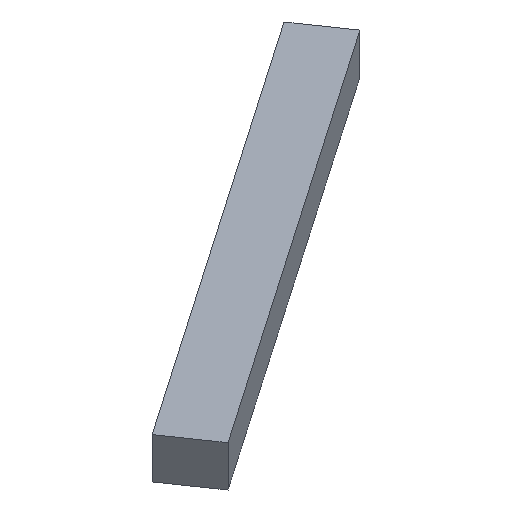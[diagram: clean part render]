
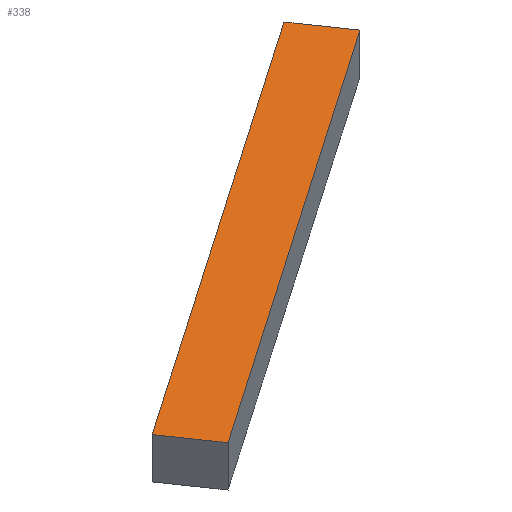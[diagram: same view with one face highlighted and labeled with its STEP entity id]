
A CAD part, isometric view. The second image highlights one B-rep face of the part: STEP entity #338.
In plain terms, the highlighted planar face has unit normal (0, 0, 1).
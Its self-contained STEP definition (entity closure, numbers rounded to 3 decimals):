
#24 = VERTEX_POINT('',#25);
#25 = CARTESIAN_POINT('',(-325.731,62.706,43.));
#32 = PLANE('',#33);
#33 = AXIS2_PLACEMENT_3D('',#34,#35,#36);
#34 = CARTESIAN_POINT('',(-325.731,62.706,37.));
#35 = DIRECTION('',(0.567,-0.824,0.));
#36 = DIRECTION('',(-0.824,-0.567,0.));
#44 = PLANE('',#45);
#45 = AXIS2_PLACEMENT_3D('',#46,#47,#48);
#46 = CARTESIAN_POINT('',(-330.269,69.294,37.));
#47 = DIRECTION('',(0.824,0.567,-0.));
#48 = DIRECTION('',(0.567,-0.824,0.));
#56 = EDGE_CURVE('',#24,#57,#59,.T.);
#57 = VERTEX_POINT('',#58);
#58 = CARTESIAN_POINT('',(-387.731,20.006,43.));
#59 = SURFACE_CURVE('',#60,(#64,#71),.PCURVE_S1.);
#60 = LINE('',#61,#62);
#61 = CARTESIAN_POINT('',(-325.731,62.706,43.));
#62 = VECTOR('',#63,1.);
#63 = DIRECTION('',(-0.824,-0.567,0.));
#64 = PCURVE('',#32,#65);
#65 = DEFINITIONAL_REPRESENTATION('',(#66),#70);
#66 = LINE('',#67,#68);
#67 = CARTESIAN_POINT('',(0.,-6.));
#68 = VECTOR('',#69,1.);
#69 = DIRECTION('',(1.,0.));
#70 = ( GEOMETRIC_REPRESENTATION_CONTEXT(2) 
PARAMETRIC_REPRESENTATION_CONTEXT() REPRESENTATION_CONTEXT('2D SPACE',''
  ) );
#71 = PCURVE('',#72,#77);
#72 = PLANE('',#73);
#73 = AXIS2_PLACEMENT_3D('',#74,#75,#76);
#74 = CARTESIAN_POINT('',(-359.,44.65,43.));
#75 = DIRECTION('',(-0.,-0.,-1.));
#76 = DIRECTION('',(-1.,0.,0.));
#77 = DEFINITIONAL_REPRESENTATION('',(#78),#82);
#78 = LINE('',#79,#80);
#79 = CARTESIAN_POINT('',(-33.269,18.056));
#80 = VECTOR('',#81,1.);
#81 = DIRECTION('',(0.824,-0.567));
#82 = ( GEOMETRIC_REPRESENTATION_CONTEXT(2) 
PARAMETRIC_REPRESENTATION_CONTEXT() REPRESENTATION_CONTEXT('2D SPACE',''
  ) );
#100 = PLANE('',#101);
#101 = AXIS2_PLACEMENT_3D('',#102,#103,#104);
#102 = CARTESIAN_POINT('',(-387.731,20.006,37.));
#103 = DIRECTION('',(-0.824,-0.567,0.));
#104 = DIRECTION('',(-0.567,0.824,0.));
#142 = EDGE_CURVE('',#57,#143,#145,.T.);
#143 = VERTEX_POINT('',#144);
#144 = CARTESIAN_POINT('',(-392.269,26.594,43.));
#145 = SURFACE_CURVE('',#146,(#150,#157),.PCURVE_S1.);
#146 = LINE('',#147,#148);
#147 = CARTESIAN_POINT('',(-387.731,20.006,43.));
#148 = VECTOR('',#149,1.);
#149 = DIRECTION('',(-0.567,0.824,0.));
#150 = PCURVE('',#100,#151);
#151 = DEFINITIONAL_REPRESENTATION('',(#152),#156);
#152 = LINE('',#153,#154);
#153 = CARTESIAN_POINT('',(0.,-6.));
#154 = VECTOR('',#155,1.);
#155 = DIRECTION('',(1.,0.));
#156 = ( GEOMETRIC_REPRESENTATION_CONTEXT(2) 
PARAMETRIC_REPRESENTATION_CONTEXT() REPRESENTATION_CONTEXT('2D SPACE',''
  ) );
#157 = PCURVE('',#72,#158);
#158 = DEFINITIONAL_REPRESENTATION('',(#159),#163);
#159 = LINE('',#160,#161);
#160 = CARTESIAN_POINT('',(28.731,-24.644));
#161 = VECTOR('',#162,1.);
#162 = DIRECTION('',(0.567,0.824));
#163 = ( GEOMETRIC_REPRESENTATION_CONTEXT(2) 
PARAMETRIC_REPRESENTATION_CONTEXT() REPRESENTATION_CONTEXT('2D SPACE',''
  ) );
#181 = PLANE('',#182);
#182 = AXIS2_PLACEMENT_3D('',#183,#184,#185);
#183 = CARTESIAN_POINT('',(-392.269,26.594,37.));
#184 = DIRECTION('',(-0.567,0.824,0.));
#185 = DIRECTION('',(0.824,0.567,0.));
#218 = EDGE_CURVE('',#143,#219,#221,.T.);
#219 = VERTEX_POINT('',#220);
#220 = CARTESIAN_POINT('',(-330.269,69.294,43.));
#221 = SURFACE_CURVE('',#222,(#226,#233),.PCURVE_S1.);
#222 = LINE('',#223,#224);
#223 = CARTESIAN_POINT('',(-392.269,26.594,43.));
#224 = VECTOR('',#225,1.);
#225 = DIRECTION('',(0.824,0.567,0.));
#226 = PCURVE('',#181,#227);
#227 = DEFINITIONAL_REPRESENTATION('',(#228),#232);
#228 = LINE('',#229,#230);
#229 = CARTESIAN_POINT('',(0.,-6.));
#230 = VECTOR('',#231,1.);
#231 = DIRECTION('',(1.,0.));
#232 = ( GEOMETRIC_REPRESENTATION_CONTEXT(2) 
PARAMETRIC_REPRESENTATION_CONTEXT() REPRESENTATION_CONTEXT('2D SPACE',''
  ) );
#233 = PCURVE('',#72,#234);
#234 = DEFINITIONAL_REPRESENTATION('',(#235),#239);
#235 = LINE('',#236,#237);
#236 = CARTESIAN_POINT('',(33.269,-18.056));
#237 = VECTOR('',#238,1.);
#238 = DIRECTION('',(-0.824,0.567));
#239 = ( GEOMETRIC_REPRESENTATION_CONTEXT(2) 
PARAMETRIC_REPRESENTATION_CONTEXT() REPRESENTATION_CONTEXT('2D SPACE',''
  ) );
#289 = EDGE_CURVE('',#219,#24,#290,.T.);
#290 = SURFACE_CURVE('',#291,(#295,#302),.PCURVE_S1.);
#291 = LINE('',#292,#293);
#292 = CARTESIAN_POINT('',(-330.269,69.294,43.));
#293 = VECTOR('',#294,1.);
#294 = DIRECTION('',(0.567,-0.824,0.));
#295 = PCURVE('',#44,#296);
#296 = DEFINITIONAL_REPRESENTATION('',(#297),#301);
#297 = LINE('',#298,#299);
#298 = CARTESIAN_POINT('',(0.,-6.));
#299 = VECTOR('',#300,1.);
#300 = DIRECTION('',(1.,0.));
#301 = ( GEOMETRIC_REPRESENTATION_CONTEXT(2) 
PARAMETRIC_REPRESENTATION_CONTEXT() REPRESENTATION_CONTEXT('2D SPACE',''
  ) );
#302 = PCURVE('',#72,#303);
#303 = DEFINITIONAL_REPRESENTATION('',(#304),#308);
#304 = LINE('',#305,#306);
#305 = CARTESIAN_POINT('',(-28.731,24.644));
#306 = VECTOR('',#307,1.);
#307 = DIRECTION('',(-0.567,-0.824));
#308 = ( GEOMETRIC_REPRESENTATION_CONTEXT(2) 
PARAMETRIC_REPRESENTATION_CONTEXT() REPRESENTATION_CONTEXT('2D SPACE',''
  ) );
#338 = ADVANCED_FACE('',(#339),#72,.F.);
#339 = FACE_BOUND('',#340,.F.);
#340 = EDGE_LOOP('',(#341,#342,#343,#344));
#341 = ORIENTED_EDGE('',*,*,#56,.T.);
#342 = ORIENTED_EDGE('',*,*,#142,.T.);
#343 = ORIENTED_EDGE('',*,*,#218,.T.);
#344 = ORIENTED_EDGE('',*,*,#289,.T.);
